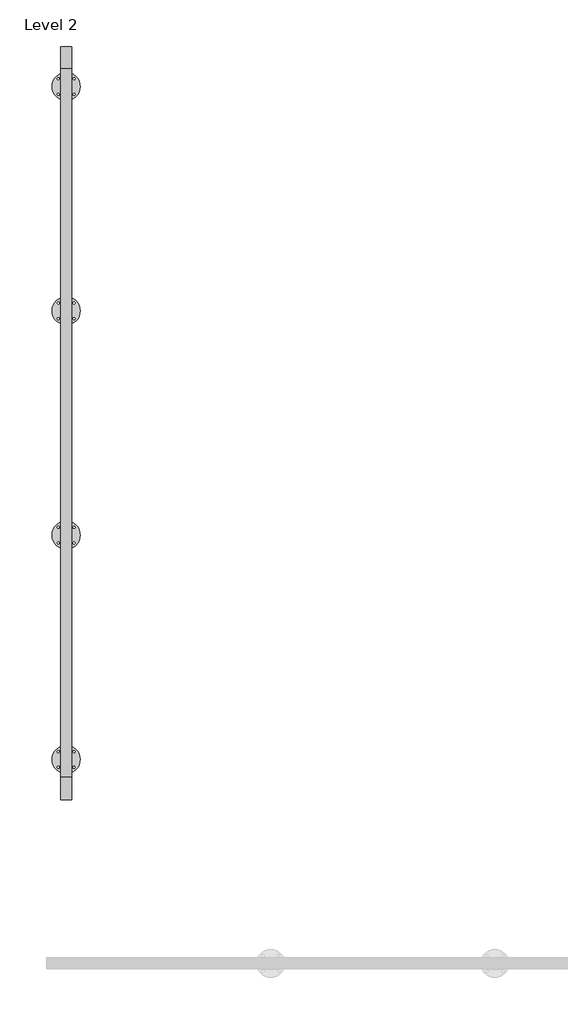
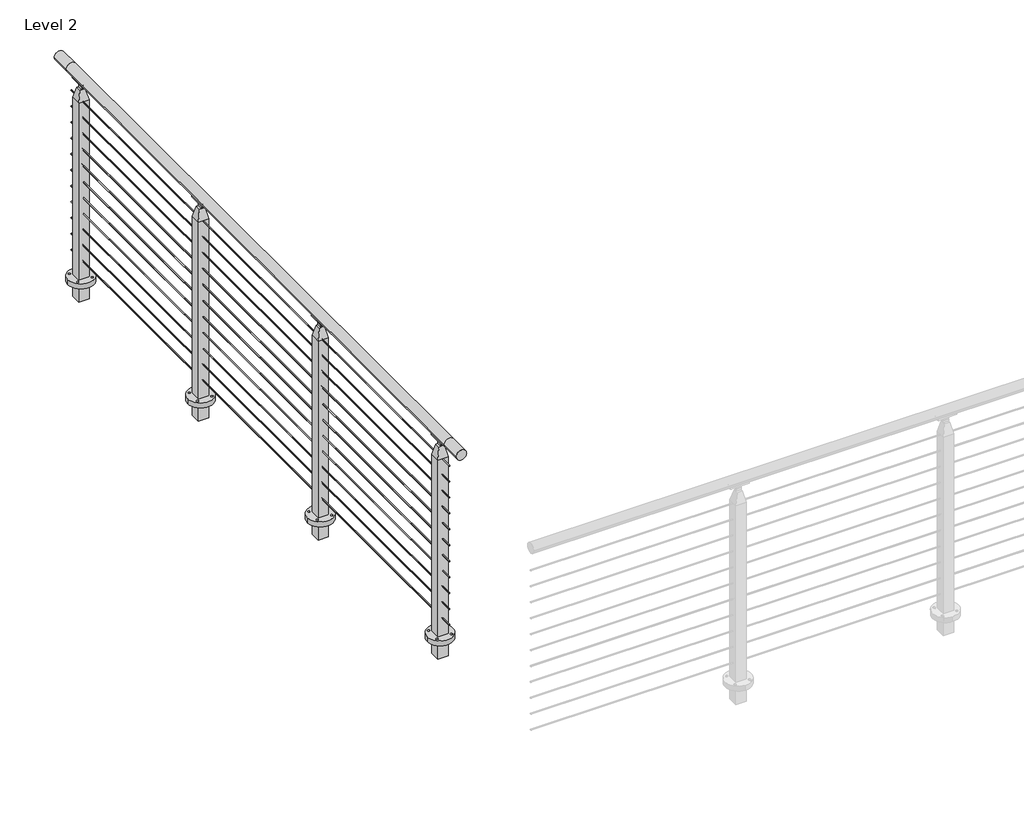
# One storey, part 15 of 17: 1 railing.
"""IFC4 building model written with IfcOpenShell, lengths in millimetres."""

from ifc_helpers import new_model, si_unit, point, frame, frame_2d, origin, place, context, project, spatial, polyline, circle_curve, trimmed, segment, composite_curve, outline, extrude, faceted_brep, element, save
from ifc_brep_helpers import plane_surface, cylinder_surface, revolved_surface, advanced_brep

model = new_model("IFC4")

# Units and contexts
model_context = context("Model", 3, world=origin())
ifc_project = project(units=[si_unit("LENGTHUNIT", "METRE", prefix="MILLI")], contexts=[model_context])

# Site, building, storey
site = spatial("IfcSite", under=ifc_project)
building = spatial("IfcBuilding", under=site)
storey = spatial("IfcBuildingStorey", under=building, Name="Level 2", Elevation=3048.0)

# Railing
placement = place(None, origin())
element("IfcRailing", 1, ObjectType="VIVA-CUBE-Cable-Core Mount-Straight", at=placement, inside=storey, context=model_context, shape_type="SolidModel", body=[
    advanced_brep(
    [(65907.3310647, -51362.5040223, 4102.1), (65856.5310647, -51362.5040223, 4102.1), (65907.3310647, -51260.9040223, 4102.1), (65856.5310647, -51260.9040223, 4102.1), (65907.3310647, -48053.4426165, 4102.1), (65856.5310647, -48053.4426165, 4102.1), (65907.3310647, -47951.8426165, 4102.1), (65856.5310647, -47951.8426165, 4102.1)],
    [
        (0, 1, circle_curve(frame((65881.9310647, -51362.5040223, 4102.1), z_axis=(0.0, -1.0, 0.0), x_axis=(-1.0, 0.0, 0.0)), 25.4)),
        (1, 0, circle_curve(frame((65881.9310647, -51362.5040223, 4102.1), z_axis=(0.0, -1.0, 0.0), x_axis=(-1.0, 0.0, 0.0)), 25.4)),
        (0, 2),
        (2, 3, circle_curve(frame((65881.9310647, -51260.9040223, 4102.1), z_axis=(0.0, -1.0, 0.0), x_axis=(-1.0, 0.0, 0.0)), 25.4)),
        (3, 1),
        (3, 2, circle_curve(frame((65881.9310647, -51260.9040223, 4102.1), z_axis=(0.0, -1.0, 0.0), x_axis=(-1.0, 0.0, 0.0)), 25.4)),
        (2, 4),
        (4, 5, circle_curve(frame((65881.9310647, -48053.4426165, 4102.1), z_axis=(0.0, -1.0, 0.0), x_axis=(-1.0, 0.0, 0.0)), 25.4)),
        (5, 3),
        (5, 4, circle_curve(frame((65881.9310647, -48053.4426165, 4102.1), z_axis=(0.0, -1.0, 0.0), x_axis=(-1.0, 0.0, 0.0)), 25.4)),
        (6, 7, circle_curve(frame((65881.9310647, -47951.8426165, 4102.1), z_axis=(0.0, 1.0, 0.0), x_axis=(-1.0, 0.0, 0.0)), 25.4)),
        (7, 6, circle_curve(frame((65881.9310647, -47951.8426165, 4102.1), z_axis=(0.0, 1.0, 0.0), x_axis=(-1.0, 0.0, 0.0)), 25.4)),
        (4, 6),
        (7, 5),
    ],
    [
        plane_surface(frame((65881.9310647, -51362.5040223, 4127.5), z_axis=(0.0, -1.0, 0.0), x_axis=(0.0, 0.0, 1.0))),
        cylinder_surface(frame((65881.9310647, -51362.5040223, 4102.1), z_axis=(0.0, -1.0, 0.0), x_axis=(-1.0, 0.0, 0.0)), 25.4),
        cylinder_surface(frame((65881.9310647, -51260.9040223, 4102.1), z_axis=(0.0, -1.0, 0.0), x_axis=(-1.0, 0.0, 0.0)), 25.4),
        plane_surface(frame((65881.9310647, -47951.8426165, 4127.5), z_axis=(0.0, 1.0, 0.0), x_axis=(0.0, 0.0, 1.0))),
        cylinder_surface(frame((65881.9310647, -48053.4426165, 4102.1), z_axis=(0.0, -1.0, 0.0), x_axis=(-1.0, 0.0, 0.0)), 25.4),
    ],
    [
        (0, [[1, 2]]),
        (1, [[-1, 3, 4, 5]]),
        (1, [[-2, -5, 6, -3]]),
        (2, [[-4, 7, 8, 9]]),
        (2, [[-6, -9, 10, -7]]),
        (3, [[11, 12]]),
        (4, [[-8, 13, -12, 14]]),
        (4, [[-10, -14, -11, -13]]),
    ],
),
    extrude(outline(composite_curve([segment(trimmed(circle_curve(frame_2d((3985.4124, 65881.9310647)), 2.3876), [point((3985.4124, 65884.3186647))], [point((3985.4124, 65879.5434647))], False, "CARTESIAN"), True, "CONTINUOUS"), segment(trimmed(circle_curve(frame_2d((3985.4124, 65881.9310647)), 2.3876), [point((3985.4124, 65879.5434647))], [point((3985.4124, 65884.3186647))], False, "CARTESIAN"), True, "CONTINUOUS")], self_intersect=False)), frame((0.0, -51260.9040223, 0.0), z_axis=(0.0, 1.0, 0.0), x_axis=(0.0, 0.0, 1.0)), (0.0, 0.0, 1.0), 3207.4614057),
    extrude(outline(composite_curve([segment(trimmed(circle_curve(frame_2d((3902.8624, 65881.9310647)), 2.3876), [point((3902.8624, 65884.3186647))], [point((3902.8624, 65879.5434647))], False, "CARTESIAN"), True, "CONTINUOUS"), segment(trimmed(circle_curve(frame_2d((3902.8624, 65881.9310647)), 2.3876), [point((3902.8624, 65879.5434647))], [point((3902.8624, 65884.3186647))], False, "CARTESIAN"), True, "CONTINUOUS")], self_intersect=False)), frame((0.0, -51260.9040223, 0.0), z_axis=(0.0, 1.0, 0.0), x_axis=(0.0, 0.0, 1.0)), (0.0, 0.0, 1.0), 3207.4614057),
    extrude(outline(composite_curve([segment(trimmed(circle_curve(frame_2d((3820.3124, 65881.9310647)), 2.3876), [point((3820.3124, 65884.3186647))], [point((3820.3124, 65879.5434647))], False, "CARTESIAN"), True, "CONTINUOUS"), segment(trimmed(circle_curve(frame_2d((3820.3124, 65881.9310647)), 2.3876), [point((3820.3124, 65879.5434647))], [point((3820.3124, 65884.3186647))], False, "CARTESIAN"), True, "CONTINUOUS")], self_intersect=False)), frame((0.0, -51260.9040223, 0.0), z_axis=(0.0, 1.0, 0.0), x_axis=(0.0, 0.0, 1.0)), (0.0, 0.0, 1.0), 3207.4614057),
    extrude(outline(composite_curve([segment(trimmed(circle_curve(frame_2d((3737.7624, 65881.9310647)), 2.3876), [point((3737.7624, 65884.3186647))], [point((3737.7624, 65879.5434647))], False, "CARTESIAN"), True, "CONTINUOUS"), segment(trimmed(circle_curve(frame_2d((3737.7624, 65881.9310647)), 2.3876), [point((3737.7624, 65879.5434647))], [point((3737.7624, 65884.3186647))], False, "CARTESIAN"), True, "CONTINUOUS")], self_intersect=False)), frame((0.0, -51260.9040223, 0.0), z_axis=(0.0, 1.0, 0.0), x_axis=(0.0, 0.0, 1.0)), (0.0, 0.0, 1.0), 3207.4614057),
    extrude(outline(composite_curve([segment(trimmed(circle_curve(frame_2d((3655.2124, 65881.9310647)), 2.3876), [point((3655.2124, 65884.3186647))], [point((3655.2124, 65879.5434647))], False, "CARTESIAN"), True, "CONTINUOUS"), segment(trimmed(circle_curve(frame_2d((3655.2124, 65881.9310647)), 2.3876), [point((3655.2124, 65879.5434647))], [point((3655.2124, 65884.3186647))], False, "CARTESIAN"), True, "CONTINUOUS")], self_intersect=False)), frame((0.0, -51260.9040223, 0.0), z_axis=(0.0, 1.0, 0.0), x_axis=(0.0, 0.0, 1.0)), (0.0, 0.0, 1.0), 3207.4614057),
    extrude(outline(composite_curve([segment(trimmed(circle_curve(frame_2d((3572.6624, 65881.9310647)), 2.3876), [point((3572.6624, 65884.3186647))], [point((3572.6624, 65879.5434647))], False, "CARTESIAN"), True, "CONTINUOUS"), segment(trimmed(circle_curve(frame_2d((3572.6624, 65881.9310647)), 2.3876), [point((3572.6624, 65879.5434647))], [point((3572.6624, 65884.3186647))], False, "CARTESIAN"), True, "CONTINUOUS")], self_intersect=False)), frame((0.0, -51260.9040223, 0.0), z_axis=(0.0, 1.0, 0.0), x_axis=(0.0, 0.0, 1.0)), (0.0, 0.0, 1.0), 3207.4614057),
    extrude(outline(composite_curve([segment(trimmed(circle_curve(frame_2d((3490.1124, 65881.9310647)), 2.3876), [point((3490.1124, 65884.3186647))], [point((3490.1124, 65879.5434647))], False, "CARTESIAN"), True, "CONTINUOUS"), segment(trimmed(circle_curve(frame_2d((3490.1124, 65881.9310647)), 2.3876), [point((3490.1124, 65879.5434647))], [point((3490.1124, 65884.3186647))], False, "CARTESIAN"), True, "CONTINUOUS")], self_intersect=False)), frame((0.0, -51260.9040223, 0.0), z_axis=(0.0, 1.0, 0.0), x_axis=(0.0, 0.0, 1.0)), (0.0, 0.0, 1.0), 3207.4614057),
    extrude(outline(composite_curve([segment(trimmed(circle_curve(frame_2d((3407.5624, 65881.9310647)), 2.3876), [point((3407.5624, 65884.3186647))], [point((3407.5624, 65879.5434647))], False, "CARTESIAN"), True, "CONTINUOUS"), segment(trimmed(circle_curve(frame_2d((3407.5624, 65881.9310647)), 2.3876), [point((3407.5624, 65879.5434647))], [point((3407.5624, 65884.3186647))], False, "CARTESIAN"), True, "CONTINUOUS")], self_intersect=False)), frame((0.0, -51260.9040223, 0.0), z_axis=(0.0, 1.0, 0.0), x_axis=(0.0, 0.0, 1.0)), (0.0, 0.0, 1.0), 3207.4614057),
    extrude(outline(composite_curve([segment(trimmed(circle_curve(frame_2d((3325.0124, 65881.9310647)), 2.3876), [point((3325.0124, 65884.3186647))], [point((3325.0124, 65879.5434647))], False, "CARTESIAN"), True, "CONTINUOUS"), segment(trimmed(circle_curve(frame_2d((3325.0124, 65881.9310647)), 2.3876), [point((3325.0124, 65879.5434647))], [point((3325.0124, 65884.3186647))], False, "CARTESIAN"), True, "CONTINUOUS")], self_intersect=False)), frame((0.0, -51260.9040223, 0.0), z_axis=(0.0, 1.0, 0.0), x_axis=(0.0, 0.0, 1.0)), (0.0, 0.0, 1.0), 3207.4614057),
    extrude(outline(composite_curve([segment(trimmed(circle_curve(frame_2d((3242.4624, 65881.9310647)), 2.3876), [point((3242.4624, 65884.3186647))], [point((3242.4624, 65879.5434647))], False, "CARTESIAN"), True, "CONTINUOUS"), segment(trimmed(circle_curve(frame_2d((3242.4624, 65881.9310647)), 2.3876), [point((3242.4624, 65879.5434647))], [point((3242.4624, 65884.3186647))], False, "CARTESIAN"), True, "CONTINUOUS")], self_intersect=False)), frame((0.0, -51260.9040223, 0.0), z_axis=(0.0, 1.0, 0.0), x_axis=(0.0, 0.0, 1.0)), (0.0, 0.0, 1.0), 3207.4614057),
    extrude(outline(composite_curve([segment(trimmed(circle_curve(frame_2d((3159.9124, 65881.9310647)), 2.3876), [point((3159.9124, 65884.3186647))], [point((3159.9124, 65879.5434647))], False, "CARTESIAN"), True, "CONTINUOUS"), segment(trimmed(circle_curve(frame_2d((3159.9124, 65881.9310647)), 2.3876), [point((3159.9124, 65879.5434647))], [point((3159.9124, 65884.3186647))], False, "CARTESIAN"), True, "CONTINUOUS")], self_intersect=False)), frame((0.0, -51260.9040223, 0.0), z_axis=(0.0, 1.0, 0.0), x_axis=(0.0, 0.0, 1.0)), (0.0, 0.0, 1.0), 3207.4614057),
    extrude(outline(composite_curve([segment(trimmed(circle_curve(frame_2d((65881.9310647, -48132.7764444)), 63.5), [point((65818.4310647, -48132.7764444))], [point((65945.4310647, -48132.7764444))], False, "CARTESIAN"), True, "CONTINUOUS"), segment(trimmed(circle_curve(frame_2d((65881.9310647, -48132.7764444)), 63.5), [point((65945.4310647, -48132.7764444))], [point((65818.4310647, -48132.7764444))], False, "CARTESIAN"), True, "CONTINUOUS")], self_intersect=False), holes=[composite_curve([segment(trimmed(circle_curve(frame_2d((65846.4613209, -48168.2461883)), 4.7625), [point((65841.6988209, -48168.2461883))], [point((65851.2238209, -48168.2461883))], True, "CARTESIAN"), True, "CONTINUOUS"), segment(trimmed(circle_curve(frame_2d((65846.4613209, -48168.2461883)), 4.7625), [point((65851.2238209, -48168.2461883))], [point((65841.6988209, -48168.2461883))], True, "CARTESIAN"), True, "CONTINUOUS")], self_intersect=False), composite_curve([segment(trimmed(circle_curve(frame_2d((65917.4008086, -48168.2461883)), 4.7625), [point((65912.6383086, -48168.2461883))], [point((65922.1633086, -48168.2461883))], True, "CARTESIAN"), True, "CONTINUOUS"), segment(trimmed(circle_curve(frame_2d((65917.4008086, -48168.2461883)), 4.7625), [point((65922.1633086, -48168.2461883))], [point((65912.6383086, -48168.2461883))], True, "CARTESIAN"), True, "CONTINUOUS")], self_intersect=False), composite_curve([segment(trimmed(circle_curve(frame_2d((65846.4613209, -48097.3067005)), 4.7625), [point((65841.6988209, -48097.3067005))], [point((65851.2238209, -48097.3067005))], True, "CARTESIAN"), True, "CONTINUOUS"), segment(trimmed(circle_curve(frame_2d((65846.4613209, -48097.3067005)), 4.7625), [point((65851.2238209, -48097.3067005))], [point((65841.6988209, -48097.3067005))], True, "CARTESIAN"), True, "CONTINUOUS")], self_intersect=False), composite_curve([segment(trimmed(circle_curve(frame_2d((65917.4008086, -48097.3067005)), 4.7625), [point((65912.6383086, -48097.3067005))], [point((65922.1633086, -48097.3067005))], True, "CARTESIAN"), True, "CONTINUOUS"), segment(trimmed(circle_curve(frame_2d((65917.4008086, -48097.3067005)), 4.7625), [point((65922.1633086, -48097.3067005))], [point((65912.6383086, -48097.3067005))], True, "CARTESIAN"), True, "CONTINUOUS")], self_intersect=False)]), frame((0.0, 0.0, 3048.0), z_axis=(0.0, 0.0, 1.0), x_axis=(1.0, 0.0, 0.0)), (0.0, 0.0, 1.0), 25.4),
    faceted_brep([(65894.6310647, -48120.0764444, 4045.2902749), (65885.8998147, -48120.0764444, 4045.2902749), (65885.8998147, -48145.4764444, 4045.2902749), (65894.6310647, -48145.4764444, 4045.2902749), (65869.2310647, -48145.4764444, 4045.2902749), (65877.9623147, -48145.4764444, 4045.2902749), (65877.9623147, -48120.0764444, 4045.2902749), (65869.2310647, -48120.0764444, 4045.2902749), (65907.3310647, -48107.3764444, 3989.1347854), (65856.5310647, -48107.3764444, 3989.1347854), (65907.3310647, -48158.1764444, 3989.1347854), (65856.5310647, -48158.1764444, 3989.1347854), (65907.3310647, -48107.3764444, 2959.1), (65907.3310647, -48158.1764444, 2959.1), (65856.5310647, -48158.1764444, 2959.1), (65856.5310647, -48107.3764444, 2959.1), (65877.9623147, -48145.4764444, 4057.3306013), (65885.8998147, -48145.4764444, 4057.3306013), (65885.8998147, -48120.0764444, 4057.3306013), (65877.9623147, -48120.0764444, 4057.3306013)], [[[0, 1, 2, 3]], [[4, 5, 6, 7]], [[8, 9, 7, 6, 1, 0]], [[3, 10, 8, 0]], [[3, 2, 5, 4, 11, 10]], [[7, 9, 11, 4]], [[12, 13, 14, 15]], [[12, 8, 10, 13]], [[13, 10, 11, 14]], [[14, 11, 9, 15]], [[15, 9, 8, 12]], [[16, 17, 18, 19]], [[19, 6, 5, 16]], [[18, 1, 6, 19]], [[17, 2, 1, 18]], [[16, 5, 2, 17]]]),
    extrude(outline(composite_curve([segment(trimmed(circle_curve(frame_2d((4077.5101807, 65867.9164325)), 2.9558141), [point((4080.0284941, 65869.4639902))], [point((4075.6392616, 65865.6280928))], False, "CARTESIAN"), True, "CONTINUOUS"), segment(trimmed(circle_curve(frame_2d((4102.905945, 65881.89433)), 31.75), [point((4075.6392616, 65865.6280928))], [point((4075.0585031, 65897.144985))], False, "CARTESIAN"), True, "CONTINUOUS"), segment(trimmed(circle_curve(frame_2d((4077.4310885, 65895.66768)), 2.7949225), [point((4075.0585031, 65897.144985))], [point((4079.9335733, 65894.4230269))], False, "CARTESIAN"), True, "CONTINUOUS"), segment(trimmed(circle_curve(frame_2d((4102.1433184, 65882.0277931)), 25.4345159), [point((4079.9335733, 65894.4230269))], [point((4080.0284941, 65869.4639902))], True, "CARTESIAN"), True, "CONTINUOUS")], self_intersect=False)), frame((0.0, -48178.0138444, 0.0), z_axis=(0.0, 1.0, 0.0), x_axis=(0.0, 0.0, 1.0)), (0.0, 0.0, 1.0), 90.4748),
    advanced_brep(
    [(65884.4710647, -48105.7085295, 4071.3685171), (65884.4710647, -48159.8443593, 4071.3685171), (65884.4710647, -48145.4764444, 4057.0006022), (65884.4710647, -48120.0764444, 4057.0006022), (65879.3910647, -48105.7085295, 4071.3685171), (65879.3910647, -48120.0764444, 4057.0006022), (65879.3910647, -48145.4764444, 4057.0006022), (65879.3910647, -48159.8443593, 4071.3685171)],
    [
        (0, 1),
        (1, 2, circle_curve(frame((65884.4710647, -48159.8443593, 4057.0006022), z_axis=(-1.0, 0.0, 0.0), x_axis=(0.0, -1.0, 0.0)), 14.3679149)),
        (2, 3, circle_curve(frame((65884.4710647, -48132.7764444, 4057.0006022), z_axis=(1.0, 0.0, 0.0), x_axis=(0.0, -1.0, 0.0)), 12.7)),
        (3, 0, circle_curve(frame((65884.4710647, -48105.7085295, 4057.0006022), z_axis=(-1.0, 0.0, 0.0), x_axis=(0.0, -1.0, 0.0)), 14.3679149)),
        (4, 5, circle_curve(frame((65879.3910647, -48105.7085295, 4057.0006022), z_axis=(1.0, 0.0, 0.0), x_axis=(0.0, -1.0, 0.0)), 14.3679149)),
        (5, 6, circle_curve(frame((65879.3910647, -48132.7764444, 4057.0006022), z_axis=(-1.0, 0.0, 0.0), x_axis=(0.0, -1.0, 0.0)), 12.7)),
        (6, 7, circle_curve(frame((65879.3910647, -48159.8443593, 4057.0006022), z_axis=(1.0, 0.0, 0.0), x_axis=(0.0, -1.0, 0.0)), 14.3679149)),
        (7, 4),
        (3, 5),
        (4, 0),
        (2, 6),
        (1, 7),
    ],
    [
        plane_surface(frame((65884.4710647, -48120.0764444, 4057.0006022), z_axis=(1.0, 0.0, 0.0), x_axis=(0.0, 0.0, -1.0))),
        plane_surface(frame((65879.3910647, -48120.0764444, 4057.0006022), z_axis=(-1.0, 0.0, 0.0), x_axis=(0.0, 0.0, 1.0))),
        revolved_surface(polyline([(65879.3910647, -48120.0764444, 4057.0006022), (65884.4710647, -48120.0764444, 4057.0006022)]), (65879.3910647, -48105.7085295, 4057.0006022), (-1.0, 0.0, 0.0)),
        cylinder_surface(frame((65879.3910647, -48132.7764444, 4057.0006022), z_axis=(1.0, 0.0, 0.0), x_axis=(0.0, -1.0, 0.0)), 12.7),
        revolved_surface(polyline([(65879.3910647, -48174.2122742, 4057.0006022), (65884.4710647, -48174.2122742, 4057.0006022)]), (65879.3910647, -48159.8443593, 4057.0006022), (-1.0, 0.0, 0.0)),
        plane_surface(frame((65884.4710647, -48159.8443593, 4071.3685171), z_axis=(0.0, 0.0, 1.0), x_axis=(-1.0, 0.0, 0.0))),
    ],
    [
        (0, [[1, 2, 3, 4]]),
        (1, [[5, 6, 7, 8]]),
        (2, [[9, -5, 10, -4]]),
        (3, [[11, -6, -9, -3]]),
        (4, [[12, -7, -11, -2]]),
        (5, [[-10, -8, -12, -1]]),
    ],
),
    extrude(outline(composite_curve([segment(trimmed(circle_curve(frame_2d((65881.9310647, -49148.7764444)), 63.5), [point((65818.4310647, -49148.7764444))], [point((65945.4310647, -49148.7764444))], False, "CARTESIAN"), True, "CONTINUOUS"), segment(trimmed(circle_curve(frame_2d((65881.9310647, -49148.7764444)), 63.5), [point((65945.4310647, -49148.7764444))], [point((65818.4310647, -49148.7764444))], False, "CARTESIAN"), True, "CONTINUOUS")], self_intersect=False), holes=[composite_curve([segment(trimmed(circle_curve(frame_2d((65846.4613209, -49184.2461883)), 4.7625), [point((65841.6988209, -49184.2461883))], [point((65851.2238209, -49184.2461883))], True, "CARTESIAN"), True, "CONTINUOUS"), segment(trimmed(circle_curve(frame_2d((65846.4613209, -49184.2461883)), 4.7625), [point((65851.2238209, -49184.2461883))], [point((65841.6988209, -49184.2461883))], True, "CARTESIAN"), True, "CONTINUOUS")], self_intersect=False), composite_curve([segment(trimmed(circle_curve(frame_2d((65917.4008086, -49184.2461883)), 4.7625), [point((65912.6383086, -49184.2461883))], [point((65922.1633086, -49184.2461883))], True, "CARTESIAN"), True, "CONTINUOUS"), segment(trimmed(circle_curve(frame_2d((65917.4008086, -49184.2461883)), 4.7625), [point((65922.1633086, -49184.2461883))], [point((65912.6383086, -49184.2461883))], True, "CARTESIAN"), True, "CONTINUOUS")], self_intersect=False), composite_curve([segment(trimmed(circle_curve(frame_2d((65846.4613209, -49113.3067005)), 4.7625), [point((65841.6988209, -49113.3067005))], [point((65851.2238209, -49113.3067005))], True, "CARTESIAN"), True, "CONTINUOUS"), segment(trimmed(circle_curve(frame_2d((65846.4613209, -49113.3067005)), 4.7625), [point((65851.2238209, -49113.3067005))], [point((65841.6988209, -49113.3067005))], True, "CARTESIAN"), True, "CONTINUOUS")], self_intersect=False), composite_curve([segment(trimmed(circle_curve(frame_2d((65917.4008086, -49113.3067005)), 4.7625), [point((65912.6383086, -49113.3067005))], [point((65922.1633086, -49113.3067005))], True, "CARTESIAN"), True, "CONTINUOUS"), segment(trimmed(circle_curve(frame_2d((65917.4008086, -49113.3067005)), 4.7625), [point((65922.1633086, -49113.3067005))], [point((65912.6383086, -49113.3067005))], True, "CARTESIAN"), True, "CONTINUOUS")], self_intersect=False)]), frame((0.0, 0.0, 3048.0), z_axis=(0.0, 0.0, 1.0), x_axis=(1.0, 0.0, 0.0)), (0.0, 0.0, 1.0), 25.4),
    faceted_brep([(65894.6310647, -49136.0764444, 4045.2902749), (65885.8998147, -49136.0764444, 4045.2902749), (65885.8998147, -49161.4764444, 4045.2902749), (65894.6310647, -49161.4764444, 4045.2902749), (65869.2310647, -49161.4764444, 4045.2902749), (65877.9623147, -49161.4764444, 4045.2902749), (65877.9623147, -49136.0764444, 4045.2902749), (65869.2310647, -49136.0764444, 4045.2902749), (65907.3310647, -49123.3764444, 3989.1347854), (65856.5310647, -49123.3764444, 3989.1347854), (65907.3310647, -49174.1764444, 3989.1347854), (65856.5310647, -49174.1764444, 3989.1347854), (65907.3310647, -49123.3764444, 2959.1), (65907.3310647, -49174.1764444, 2959.1), (65856.5310647, -49174.1764444, 2959.1), (65856.5310647, -49123.3764444, 2959.1), (65877.9623147, -49161.4764444, 4057.3306013), (65885.8998147, -49161.4764444, 4057.3306013), (65885.8998147, -49136.0764444, 4057.3306013), (65877.9623147, -49136.0764444, 4057.3306013)], [[[0, 1, 2, 3]], [[4, 5, 6, 7]], [[8, 9, 7, 6, 1, 0]], [[3, 10, 8, 0]], [[3, 2, 5, 4, 11, 10]], [[7, 9, 11, 4]], [[12, 13, 14, 15]], [[12, 8, 10, 13]], [[13, 10, 11, 14]], [[14, 11, 9, 15]], [[15, 9, 8, 12]], [[16, 17, 18, 19]], [[19, 6, 5, 16]], [[18, 1, 6, 19]], [[17, 2, 1, 18]], [[16, 5, 2, 17]]]),
    extrude(outline(composite_curve([segment(trimmed(circle_curve(frame_2d((4077.5101807, 65867.9164325)), 2.9558141), [point((4080.0284941, 65869.4639902))], [point((4075.6392616, 65865.6280928))], False, "CARTESIAN"), True, "CONTINUOUS"), segment(trimmed(circle_curve(frame_2d((4102.905945, 65881.89433)), 31.75), [point((4075.6392616, 65865.6280928))], [point((4075.0585031, 65897.144985))], False, "CARTESIAN"), True, "CONTINUOUS"), segment(trimmed(circle_curve(frame_2d((4077.4310885, 65895.66768)), 2.7949225), [point((4075.0585031, 65897.144985))], [point((4079.9335733, 65894.4230269))], False, "CARTESIAN"), True, "CONTINUOUS"), segment(trimmed(circle_curve(frame_2d((4102.1433184, 65882.0277931)), 25.4345159), [point((4079.9335733, 65894.4230269))], [point((4080.0284941, 65869.4639902))], True, "CARTESIAN"), True, "CONTINUOUS")], self_intersect=False)), frame((0.0, -49194.0138444, 0.0), z_axis=(0.0, 1.0, 0.0), x_axis=(0.0, 0.0, 1.0)), (0.0, 0.0, 1.0), 90.4748),
    advanced_brep(
    [(65884.4710647, -49121.7085295, 4071.3685171), (65884.4710647, -49175.8443593, 4071.3685171), (65884.4710647, -49161.4764444, 4057.0006022), (65884.4710647, -49136.0764444, 4057.0006022), (65879.3910647, -49121.7085295, 4071.3685171), (65879.3910647, -49136.0764444, 4057.0006022), (65879.3910647, -49161.4764444, 4057.0006022), (65879.3910647, -49175.8443593, 4071.3685171)],
    [
        (0, 1),
        (1, 2, circle_curve(frame((65884.4710647, -49175.8443593, 4057.0006022), z_axis=(-1.0, 0.0, 0.0), x_axis=(0.0, -1.0, 0.0)), 14.3679149)),
        (2, 3, circle_curve(frame((65884.4710647, -49148.7764444, 4057.0006022), z_axis=(1.0, 0.0, 0.0), x_axis=(0.0, -1.0, 0.0)), 12.7)),
        (3, 0, circle_curve(frame((65884.4710647, -49121.7085295, 4057.0006022), z_axis=(-1.0, 0.0, 0.0), x_axis=(0.0, -1.0, 0.0)), 14.3679149)),
        (4, 5, circle_curve(frame((65879.3910647, -49121.7085295, 4057.0006022), z_axis=(1.0, 0.0, 0.0), x_axis=(0.0, -1.0, 0.0)), 14.3679149)),
        (5, 6, circle_curve(frame((65879.3910647, -49148.7764444, 4057.0006022), z_axis=(-1.0, 0.0, 0.0), x_axis=(0.0, -1.0, 0.0)), 12.7)),
        (6, 7, circle_curve(frame((65879.3910647, -49175.8443593, 4057.0006022), z_axis=(1.0, 0.0, 0.0), x_axis=(0.0, -1.0, 0.0)), 14.3679149)),
        (7, 4),
        (3, 5),
        (4, 0),
        (2, 6),
        (1, 7),
    ],
    [
        plane_surface(frame((65884.4710647, -49136.0764444, 4057.0006022), z_axis=(1.0, 0.0, 0.0), x_axis=(0.0, 0.0, -1.0))),
        plane_surface(frame((65879.3910647, -49136.0764444, 4057.0006022), z_axis=(-1.0, 0.0, 0.0), x_axis=(0.0, 0.0, 1.0))),
        revolved_surface(polyline([(65879.3910647, -49136.0764444, 4057.0006022), (65884.4710647, -49136.0764444, 4057.0006022)]), (65879.3910647, -49121.7085295, 4057.0006022), (-1.0, 0.0, 0.0)),
        cylinder_surface(frame((65879.3910647, -49148.7764444, 4057.0006022), z_axis=(1.0, 0.0, 0.0), x_axis=(0.0, -1.0, 0.0)), 12.7),
        revolved_surface(polyline([(65879.3910647, -49190.2122742, 4057.0006022), (65884.4710647, -49190.2122742, 4057.0006022)]), (65879.3910647, -49175.8443593, 4057.0006022), (-1.0, 0.0, 0.0)),
        plane_surface(frame((65884.4710647, -49175.8443593, 4071.3685171), z_axis=(0.0, 0.0, 1.0), x_axis=(-1.0, 0.0, 0.0))),
    ],
    [
        (0, [[1, 2, 3, 4]]),
        (1, [[5, 6, 7, 8]]),
        (2, [[9, -5, 10, -4]]),
        (3, [[11, -6, -9, -3]]),
        (4, [[12, -7, -11, -2]]),
        (5, [[-10, -8, -12, -1]]),
    ],
),
    extrude(outline(composite_curve([segment(trimmed(circle_curve(frame_2d((65881.9310647, -50164.7764444)), 63.5), [point((65818.4310647, -50164.7764444))], [point((65945.4310647, -50164.7764444))], False, "CARTESIAN"), True, "CONTINUOUS"), segment(trimmed(circle_curve(frame_2d((65881.9310647, -50164.7764444)), 63.5), [point((65945.4310647, -50164.7764444))], [point((65818.4310647, -50164.7764444))], False, "CARTESIAN"), True, "CONTINUOUS")], self_intersect=False), holes=[composite_curve([segment(trimmed(circle_curve(frame_2d((65846.4613209, -50200.2461883)), 4.7625), [point((65841.6988209, -50200.2461883))], [point((65851.2238209, -50200.2461883))], True, "CARTESIAN"), True, "CONTINUOUS"), segment(trimmed(circle_curve(frame_2d((65846.4613209, -50200.2461883)), 4.7625), [point((65851.2238209, -50200.2461883))], [point((65841.6988209, -50200.2461883))], True, "CARTESIAN"), True, "CONTINUOUS")], self_intersect=False), composite_curve([segment(trimmed(circle_curve(frame_2d((65917.4008086, -50200.2461883)), 4.7625), [point((65912.6383086, -50200.2461883))], [point((65922.1633086, -50200.2461883))], True, "CARTESIAN"), True, "CONTINUOUS"), segment(trimmed(circle_curve(frame_2d((65917.4008086, -50200.2461883)), 4.7625), [point((65922.1633086, -50200.2461883))], [point((65912.6383086, -50200.2461883))], True, "CARTESIAN"), True, "CONTINUOUS")], self_intersect=False), composite_curve([segment(trimmed(circle_curve(frame_2d((65846.4613209, -50129.3067005)), 4.7625), [point((65841.6988209, -50129.3067005))], [point((65851.2238209, -50129.3067005))], True, "CARTESIAN"), True, "CONTINUOUS"), segment(trimmed(circle_curve(frame_2d((65846.4613209, -50129.3067005)), 4.7625), [point((65851.2238209, -50129.3067005))], [point((65841.6988209, -50129.3067005))], True, "CARTESIAN"), True, "CONTINUOUS")], self_intersect=False), composite_curve([segment(trimmed(circle_curve(frame_2d((65917.4008086, -50129.3067005)), 4.7625), [point((65912.6383086, -50129.3067005))], [point((65922.1633086, -50129.3067005))], True, "CARTESIAN"), True, "CONTINUOUS"), segment(trimmed(circle_curve(frame_2d((65917.4008086, -50129.3067005)), 4.7625), [point((65922.1633086, -50129.3067005))], [point((65912.6383086, -50129.3067005))], True, "CARTESIAN"), True, "CONTINUOUS")], self_intersect=False)]), frame((0.0, 0.0, 3048.0), z_axis=(0.0, 0.0, 1.0), x_axis=(1.0, 0.0, 0.0)), (0.0, 0.0, 1.0), 25.4),
    faceted_brep([(65894.6310647, -50152.0764444, 4045.2902749), (65885.8998147, -50152.0764444, 4045.2902749), (65885.8998147, -50177.4764444, 4045.2902749), (65894.6310647, -50177.4764444, 4045.2902749), (65869.2310647, -50177.4764444, 4045.2902749), (65877.9623147, -50177.4764444, 4045.2902749), (65877.9623147, -50152.0764444, 4045.2902749), (65869.2310647, -50152.0764444, 4045.2902749), (65907.3310647, -50139.3764444, 3989.1347854), (65856.5310647, -50139.3764444, 3989.1347854), (65907.3310647, -50190.1764444, 3989.1347854), (65856.5310647, -50190.1764444, 3989.1347854), (65907.3310647, -50139.3764444, 2959.1), (65907.3310647, -50190.1764444, 2959.1), (65856.5310647, -50190.1764444, 2959.1), (65856.5310647, -50139.3764444, 2959.1), (65877.9623147, -50177.4764444, 4057.3306013), (65885.8998147, -50177.4764444, 4057.3306013), (65885.8998147, -50152.0764444, 4057.3306013), (65877.9623147, -50152.0764444, 4057.3306013)], [[[0, 1, 2, 3]], [[4, 5, 6, 7]], [[8, 9, 7, 6, 1, 0]], [[3, 10, 8, 0]], [[3, 2, 5, 4, 11, 10]], [[7, 9, 11, 4]], [[12, 13, 14, 15]], [[12, 8, 10, 13]], [[13, 10, 11, 14]], [[14, 11, 9, 15]], [[15, 9, 8, 12]], [[16, 17, 18, 19]], [[19, 6, 5, 16]], [[18, 1, 6, 19]], [[17, 2, 1, 18]], [[16, 5, 2, 17]]]),
    extrude(outline(composite_curve([segment(trimmed(circle_curve(frame_2d((4077.5101807, 65867.9164325)), 2.9558141), [point((4080.0284941, 65869.4639902))], [point((4075.6392616, 65865.6280928))], False, "CARTESIAN"), True, "CONTINUOUS"), segment(trimmed(circle_curve(frame_2d((4102.905945, 65881.89433)), 31.75), [point((4075.6392616, 65865.6280928))], [point((4075.0585031, 65897.144985))], False, "CARTESIAN"), True, "CONTINUOUS"), segment(trimmed(circle_curve(frame_2d((4077.4310885, 65895.66768)), 2.7949225), [point((4075.0585031, 65897.144985))], [point((4079.9335733, 65894.4230269))], False, "CARTESIAN"), True, "CONTINUOUS"), segment(trimmed(circle_curve(frame_2d((4102.1433184, 65882.0277931)), 25.4345159), [point((4079.9335733, 65894.4230269))], [point((4080.0284941, 65869.4639902))], True, "CARTESIAN"), True, "CONTINUOUS")], self_intersect=False)), frame((0.0, -50210.0138444, 0.0), z_axis=(0.0, 1.0, 0.0), x_axis=(0.0, 0.0, 1.0)), (0.0, 0.0, 1.0), 90.4748),
    advanced_brep(
    [(65884.4710647, -50137.7085295, 4071.3685171), (65884.4710647, -50191.8443593, 4071.3685171), (65884.4710647, -50177.4764444, 4057.0006022), (65884.4710647, -50152.0764444, 4057.0006022), (65879.3910647, -50137.7085295, 4071.3685171), (65879.3910647, -50152.0764444, 4057.0006022), (65879.3910647, -50177.4764444, 4057.0006022), (65879.3910647, -50191.8443593, 4071.3685171)],
    [
        (0, 1),
        (1, 2, circle_curve(frame((65884.4710647, -50191.8443593, 4057.0006022), z_axis=(-1.0, 0.0, 0.0), x_axis=(0.0, -1.0, 0.0)), 14.3679149)),
        (2, 3, circle_curve(frame((65884.4710647, -50164.7764444, 4057.0006022), z_axis=(1.0, 0.0, 0.0), x_axis=(0.0, -1.0, 0.0)), 12.7)),
        (3, 0, circle_curve(frame((65884.4710647, -50137.7085295, 4057.0006022), z_axis=(-1.0, 0.0, 0.0), x_axis=(0.0, -1.0, 0.0)), 14.3679149)),
        (4, 5, circle_curve(frame((65879.3910647, -50137.7085295, 4057.0006022), z_axis=(1.0, 0.0, 0.0), x_axis=(0.0, -1.0, 0.0)), 14.3679149)),
        (5, 6, circle_curve(frame((65879.3910647, -50164.7764444, 4057.0006022), z_axis=(-1.0, 0.0, 0.0), x_axis=(0.0, -1.0, 0.0)), 12.7)),
        (6, 7, circle_curve(frame((65879.3910647, -50191.8443593, 4057.0006022), z_axis=(1.0, 0.0, 0.0), x_axis=(0.0, -1.0, 0.0)), 14.3679149)),
        (7, 4),
        (3, 5),
        (4, 0),
        (2, 6),
        (1, 7),
    ],
    [
        plane_surface(frame((65884.4710647, -50152.0764444, 4057.0006022), z_axis=(1.0, 0.0, 0.0), x_axis=(0.0, 0.0, -1.0))),
        plane_surface(frame((65879.3910647, -50152.0764444, 4057.0006022), z_axis=(-1.0, 0.0, 0.0), x_axis=(0.0, 0.0, 1.0))),
        revolved_surface(polyline([(65879.3910647, -50152.0764444, 4057.0006022), (65884.4710647, -50152.0764444, 4057.0006022)]), (65879.3910647, -50137.7085295, 4057.0006022), (-1.0, 0.0, 0.0)),
        cylinder_surface(frame((65879.3910647, -50164.7764444, 4057.0006022), z_axis=(1.0, 0.0, 0.0), x_axis=(0.0, -1.0, 0.0)), 12.7),
        revolved_surface(polyline([(65879.3910647, -50206.2122742, 4057.0006022), (65884.4710647, -50206.2122742, 4057.0006022)]), (65879.3910647, -50191.8443593, 4057.0006022), (-1.0, 0.0, 0.0)),
        plane_surface(frame((65884.4710647, -50191.8443593, 4071.3685171), z_axis=(0.0, 0.0, 1.0), x_axis=(-1.0, 0.0, 0.0))),
    ],
    [
        (0, [[1, 2, 3, 4]]),
        (1, [[5, 6, 7, 8]]),
        (2, [[9, -5, 10, -4]]),
        (3, [[11, -6, -9, -3]]),
        (4, [[12, -7, -11, -2]]),
        (5, [[-10, -8, -12, -1]]),
    ],
),
    extrude(outline(composite_curve([segment(trimmed(circle_curve(frame_2d((65881.9310647, -51180.7764444)), 63.5), [point((65818.4310647, -51180.7764444))], [point((65945.4310647, -51180.7764444))], False, "CARTESIAN"), True, "CONTINUOUS"), segment(trimmed(circle_curve(frame_2d((65881.9310647, -51180.7764444)), 63.5), [point((65945.4310647, -51180.7764444))], [point((65818.4310647, -51180.7764444))], False, "CARTESIAN"), True, "CONTINUOUS")], self_intersect=False), holes=[composite_curve([segment(trimmed(circle_curve(frame_2d((65846.4613209, -51216.2461883)), 4.7625), [point((65841.6988209, -51216.2461883))], [point((65851.2238209, -51216.2461883))], True, "CARTESIAN"), True, "CONTINUOUS"), segment(trimmed(circle_curve(frame_2d((65846.4613209, -51216.2461883)), 4.7625), [point((65851.2238209, -51216.2461883))], [point((65841.6988209, -51216.2461883))], True, "CARTESIAN"), True, "CONTINUOUS")], self_intersect=False), composite_curve([segment(trimmed(circle_curve(frame_2d((65917.4008086, -51216.2461883)), 4.7625), [point((65912.6383086, -51216.2461883))], [point((65922.1633086, -51216.2461883))], True, "CARTESIAN"), True, "CONTINUOUS"), segment(trimmed(circle_curve(frame_2d((65917.4008086, -51216.2461883)), 4.7625), [point((65922.1633086, -51216.2461883))], [point((65912.6383086, -51216.2461883))], True, "CARTESIAN"), True, "CONTINUOUS")], self_intersect=False), composite_curve([segment(trimmed(circle_curve(frame_2d((65846.4613209, -51145.3067005)), 4.7625), [point((65841.6988209, -51145.3067005))], [point((65851.2238209, -51145.3067005))], True, "CARTESIAN"), True, "CONTINUOUS"), segment(trimmed(circle_curve(frame_2d((65846.4613209, -51145.3067005)), 4.7625), [point((65851.2238209, -51145.3067005))], [point((65841.6988209, -51145.3067005))], True, "CARTESIAN"), True, "CONTINUOUS")], self_intersect=False), composite_curve([segment(trimmed(circle_curve(frame_2d((65917.4008086, -51145.3067005)), 4.7625), [point((65912.6383086, -51145.3067005))], [point((65922.1633086, -51145.3067005))], True, "CARTESIAN"), True, "CONTINUOUS"), segment(trimmed(circle_curve(frame_2d((65917.4008086, -51145.3067005)), 4.7625), [point((65922.1633086, -51145.3067005))], [point((65912.6383086, -51145.3067005))], True, "CARTESIAN"), True, "CONTINUOUS")], self_intersect=False)]), frame((0.0, 0.0, 3048.0), z_axis=(0.0, 0.0, 1.0), x_axis=(1.0, 0.0, 0.0)), (0.0, 0.0, 1.0), 25.4),
    faceted_brep([(65894.6310647, -51168.0764444, 4045.2902749), (65885.8998147, -51168.0764444, 4045.2902749), (65885.8998147, -51193.4764444, 4045.2902749), (65894.6310647, -51193.4764444, 4045.2902749), (65869.2310647, -51193.4764444, 4045.2902749), (65877.9623147, -51193.4764444, 4045.2902749), (65877.9623147, -51168.0764444, 4045.2902749), (65869.2310647, -51168.0764444, 4045.2902749), (65907.3310647, -51155.3764444, 3989.1347854), (65856.5310647, -51155.3764444, 3989.1347854), (65907.3310647, -51206.1764444, 3989.1347854), (65856.5310647, -51206.1764444, 3989.1347854), (65907.3310647, -51155.3764444, 2959.1), (65907.3310647, -51206.1764444, 2959.1), (65856.5310647, -51206.1764444, 2959.1), (65856.5310647, -51155.3764444, 2959.1), (65877.9623147, -51193.4764444, 4057.3306013), (65885.8998147, -51193.4764444, 4057.3306013), (65885.8998147, -51168.0764444, 4057.3306013), (65877.9623147, -51168.0764444, 4057.3306013)], [[[0, 1, 2, 3]], [[4, 5, 6, 7]], [[8, 9, 7, 6, 1, 0]], [[3, 10, 8, 0]], [[3, 2, 5, 4, 11, 10]], [[7, 9, 11, 4]], [[12, 13, 14, 15]], [[12, 8, 10, 13]], [[13, 10, 11, 14]], [[14, 11, 9, 15]], [[15, 9, 8, 12]], [[16, 17, 18, 19]], [[19, 6, 5, 16]], [[18, 1, 6, 19]], [[17, 2, 1, 18]], [[16, 5, 2, 17]]]),
    extrude(outline(composite_curve([segment(trimmed(circle_curve(frame_2d((4077.5101807, 65867.9164325)), 2.9558141), [point((4080.0284941, 65869.4639902))], [point((4075.6392616, 65865.6280928))], False, "CARTESIAN"), True, "CONTINUOUS"), segment(trimmed(circle_curve(frame_2d((4102.905945, 65881.89433)), 31.75), [point((4075.6392616, 65865.6280928))], [point((4075.0585031, 65897.144985))], False, "CARTESIAN"), True, "CONTINUOUS"), segment(trimmed(circle_curve(frame_2d((4077.4310885, 65895.66768)), 2.7949225), [point((4075.0585031, 65897.144985))], [point((4079.9335733, 65894.4230269))], False, "CARTESIAN"), True, "CONTINUOUS"), segment(trimmed(circle_curve(frame_2d((4102.1433184, 65882.0277931)), 25.4345159), [point((4079.9335733, 65894.4230269))], [point((4080.0284941, 65869.4639902))], True, "CARTESIAN"), True, "CONTINUOUS")], self_intersect=False)), frame((0.0, -51226.0138444, 0.0), z_axis=(0.0, 1.0, 0.0), x_axis=(0.0, 0.0, 1.0)), (0.0, 0.0, 1.0), 90.4748),
    advanced_brep(
    [(65884.4710647, -51153.7085295, 4071.3685171), (65884.4710647, -51207.8443593, 4071.3685171), (65884.4710647, -51193.4764444, 4057.0006022), (65884.4710647, -51168.0764444, 4057.0006022), (65879.3910647, -51153.7085295, 4071.3685171), (65879.3910647, -51168.0764444, 4057.0006022), (65879.3910647, -51193.4764444, 4057.0006022), (65879.3910647, -51207.8443593, 4071.3685171)],
    [
        (0, 1),
        (1, 2, circle_curve(frame((65884.4710647, -51207.8443593, 4057.0006022), z_axis=(-1.0, 0.0, 0.0), x_axis=(0.0, -1.0, 0.0)), 14.3679149)),
        (2, 3, circle_curve(frame((65884.4710647, -51180.7764444, 4057.0006022), z_axis=(1.0, 0.0, 0.0), x_axis=(0.0, -1.0, 0.0)), 12.7)),
        (3, 0, circle_curve(frame((65884.4710647, -51153.7085295, 4057.0006022), z_axis=(-1.0, 0.0, 0.0), x_axis=(0.0, -1.0, 0.0)), 14.3679149)),
        (4, 5, circle_curve(frame((65879.3910647, -51153.7085295, 4057.0006022), z_axis=(1.0, 0.0, 0.0), x_axis=(0.0, -1.0, 0.0)), 14.3679149)),
        (5, 6, circle_curve(frame((65879.3910647, -51180.7764444, 4057.0006022), z_axis=(-1.0, 0.0, 0.0), x_axis=(0.0, -1.0, 0.0)), 12.7)),
        (6, 7, circle_curve(frame((65879.3910647, -51207.8443593, 4057.0006022), z_axis=(1.0, 0.0, 0.0), x_axis=(0.0, -1.0, 0.0)), 14.3679149)),
        (7, 4),
        (3, 5),
        (4, 0),
        (2, 6),
        (1, 7),
    ],
    [
        plane_surface(frame((65884.4710647, -51168.0764444, 4057.0006022), z_axis=(1.0, 0.0, 0.0), x_axis=(0.0, 0.0, -1.0))),
        plane_surface(frame((65879.3910647, -51168.0764444, 4057.0006022), z_axis=(-1.0, 0.0, 0.0), x_axis=(0.0, 0.0, 1.0))),
        revolved_surface(polyline([(65879.3910647, -51168.0764444, 4057.0006022), (65884.4710647, -51168.0764444, 4057.0006022)]), (65879.3910647, -51153.7085295, 4057.0006022), (-1.0, 0.0, 0.0)),
        cylinder_surface(frame((65879.3910647, -51180.7764444, 4057.0006022), z_axis=(1.0, 0.0, 0.0), x_axis=(0.0, -1.0, 0.0)), 12.7),
        revolved_surface(polyline([(65879.3910647, -51222.2122742, 4057.0006022), (65884.4710647, -51222.2122742, 4057.0006022)]), (65879.3910647, -51207.8443593, 4057.0006022), (-1.0, 0.0, 0.0)),
        plane_surface(frame((65884.4710647, -51207.8443593, 4071.3685171), z_axis=(0.0, 0.0, 1.0), x_axis=(-1.0, 0.0, 0.0))),
    ],
    [
        (0, [[1, 2, 3, 4]]),
        (1, [[5, 6, 7, 8]]),
        (2, [[9, -5, 10, -4]]),
        (3, [[11, -6, -9, -3]]),
        (4, [[12, -7, -11, -2]]),
        (5, [[-10, -8, -12, -1]]),
    ],
),
])

save(model, "model.ifc")
